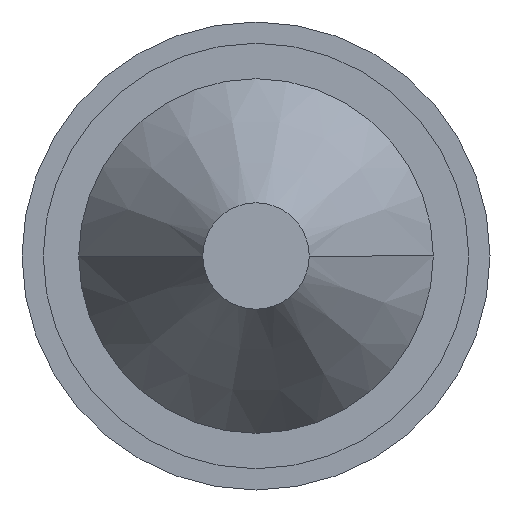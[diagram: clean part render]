
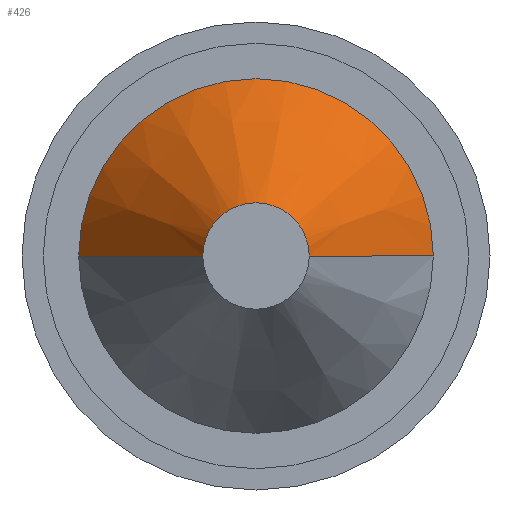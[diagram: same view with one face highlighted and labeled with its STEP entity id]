
A CAD part, front view. The second image highlights one B-rep face of the part: STEP entity #426.
In plain terms, the highlighted conical face has half-angle 32.005 degrees and reference radius 25 mm.
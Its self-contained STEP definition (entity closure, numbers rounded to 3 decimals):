
#98 = ORIENTED_EDGE ( 'NONE', *, *, #456, .F. ) ;
#99 = ORIENTED_EDGE ( 'NONE', *, *, #455, .F. ) ;
#100 = ORIENTED_EDGE ( 'NONE', *, *, #454, .T. ) ;
#101 = ORIENTED_EDGE ( 'NONE', *, *, #453, .T. ) ;
#121 = EDGE_LOOP ( 'NONE', ( #101, #100, #99, #98 ) ) ;
#129 = VERTEX_POINT ( 'NONE', #138 ) ;
#130 = VERTEX_POINT ( 'NONE', #141 ) ;
#131 = VERTEX_POINT ( 'NONE', #142 ) ;
#138 = CARTESIAN_POINT ( 'NONE',  ( 25., -20., 0. ) ) ;
#141 = CARTESIAN_POINT ( 'NONE',  ( -25., -20., 0. ) ) ;
#142 = CARTESIAN_POINT ( 'NONE',  ( 7.5, -48., 0. ) ) ;
#171 = AXIS2_PLACEMENT_3D ( 'NONE', #343, #344, #345 ) ;
#172 = VECTOR ( 'NONE', #347, 1000. ) ;
#173 = CIRCLE ( 'NONE', #171, 25. ) ;
#174 = AXIS2_PLACEMENT_3D ( 'NONE', #338, #339, #340 ) ;
#175 = VECTOR ( 'NONE', #341, 1000. ) ;
#178 = CIRCLE ( 'NONE', #174, 7.5 ) ;
#206 = AXIS2_PLACEMENT_3D ( 'NONE', #291, #289, #285 ) ;
#207 = CONICAL_SURFACE ( 'NONE', #206, 25., 0.559 ) ;
#253 = CARTESIAN_POINT ( 'NONE',  ( -7.5, -48., 0. ) ) ;
#285 = DIRECTION ( 'NONE',  ( -1., 0., 0. ) ) ;
#288 = FACE_OUTER_BOUND ( 'NONE', #121, .T. ) ;
#289 = DIRECTION ( 'NONE',  ( 0., 1., 0. ) ) ;
#291 = CARTESIAN_POINT ( 'NONE',  ( 0., -20., 0. ) ) ;
#309 = VERTEX_POINT ( 'NONE', #253 ) ;
#333 = CARTESIAN_POINT ( 'NONE',  ( 25., -20., 0. ) ) ;
#335 = LINE ( 'NONE', #336, #172 ) ;
#336 = CARTESIAN_POINT ( 'NONE',  ( -25., -20., 0. ) ) ;
#337 = LINE ( 'NONE', #333, #175 ) ;
#338 = CARTESIAN_POINT ( 'NONE',  ( 0., -48., 0. ) ) ;
#339 = DIRECTION ( 'NONE',  ( 0., 1., 0. ) ) ;
#340 = DIRECTION ( 'NONE',  ( -1., 0., 0. ) ) ;
#341 = DIRECTION ( 'NONE',  ( 0.53, 0.848, 0. ) ) ;
#343 = CARTESIAN_POINT ( 'NONE',  ( 0., -20., 0. ) ) ;
#344 = DIRECTION ( 'NONE',  ( 0., 1., 0. ) ) ;
#345 = DIRECTION ( 'NONE',  ( -1., 0., 0. ) ) ;
#347 = DIRECTION ( 'NONE',  ( -0.53, 0.848, 0. ) ) ;
#426 = ADVANCED_FACE ( 'NONE', ( #288 ), #207, .T. ) ;
#453 = EDGE_CURVE ( 'NONE', #309, #131, #178, .T. ) ;
#454 = EDGE_CURVE ( 'NONE', #131, #129, #337, .T. ) ;
#455 = EDGE_CURVE ( 'NONE', #130, #129, #173, .T. ) ;
#456 = EDGE_CURVE ( 'NONE', #309, #130, #335, .T. ) ;
